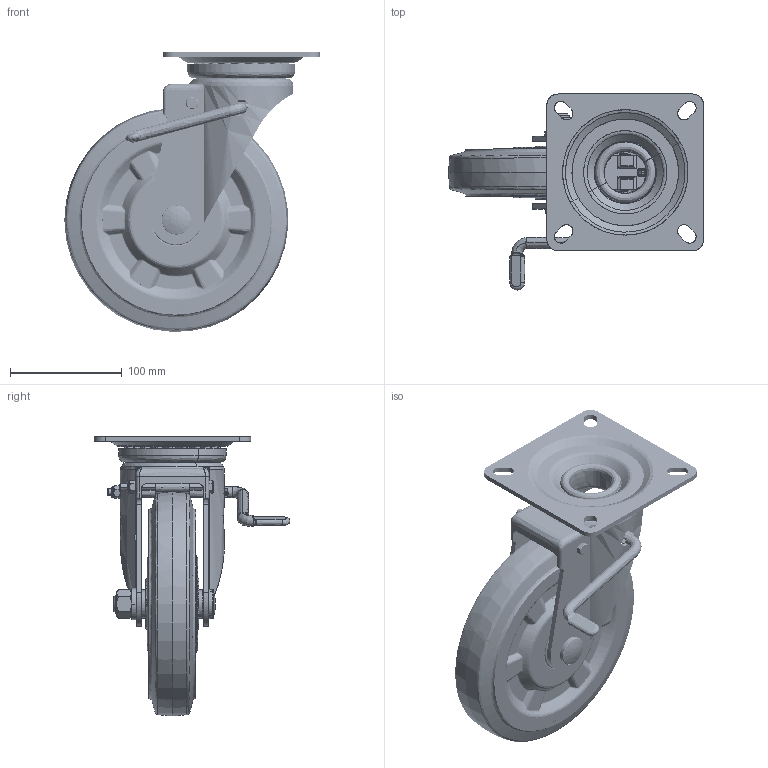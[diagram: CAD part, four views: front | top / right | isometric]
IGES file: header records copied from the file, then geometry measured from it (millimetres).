
Start section: JAMA-IS VERSION  1.0
Global section: file name: E:\tools-models\その他メーカー2\INOAC車輪\8月\GR-200WJS-ALL.igs; native system: CAM-TOOL; preprocessor: C3out Version 11.1.1.50212 (2015/02/12); author: NONE; organization: NONE; date: 220825.171833; units: millimetre
Bounding box: 228 x 175 x 249.92 mm (x, y, z)
Surface area: 431768.6 mm2 (no closed solid volume)
Topology: 0 solids, 0 shells, 1936 faces, 32000 edges, 32930 vertices
Faces by surface type: bspline 1936
